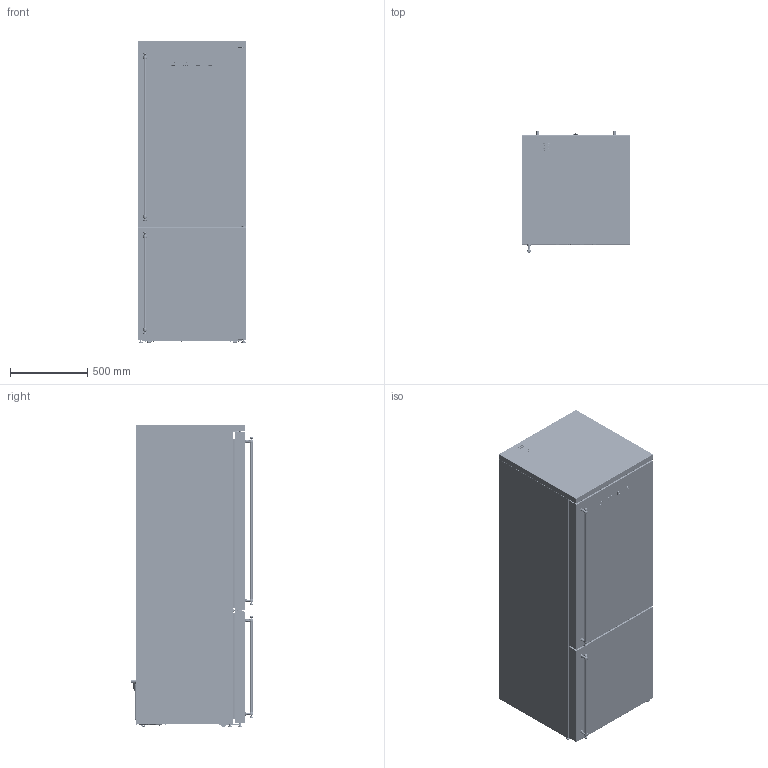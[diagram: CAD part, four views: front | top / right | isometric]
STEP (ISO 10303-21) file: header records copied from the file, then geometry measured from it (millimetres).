
FILE_DESCRIPTION(/* description */ (''),/* implementation_level */ '2;1');
FILE_NAME(/* name */ 'Assy-FA8005.stp',/* time_stamp */ '2025-07-28T12:39:12+02:00',/* author */ (''),/* organization */ (''),/* preprocessor_version */ 'ST-DEVELOPER v20',/* originating_system */ 'SIEMENS PLM Software NX2412.4001',/* authorisation */ '');
FILE_SCHEMA (('AUTOMOTIVE_DESIGN { 1 0 10303 214 3 1 1 1 }'));
Products named in the file (1): Assy-FA8005_objects
Bounding box: 703.6 x 790.49 x 1955.1 mm (x, y, z)
Volume: 11338305.9 mm3; surface area: 25139757.2 mm2
Topology: 100 solids, 106 shells, 9371 faces, 24169 edges, 15166 vertices
Faces by surface type: plane 4748, cylinder 3137, bspline 542, torus 481, cone 318, sphere 137, revolution 8
Full cylindrical faces by diameter (mm): 2 x27, 2.05 x8, 2.1 x8, 2.5 x8, 2.8 x2, 2.9 x6, 3.15 x3, 3.2 x34, 3.4 x2, 3.5 x20, 3.503 x24, 3.6 x2, 3.8 x6, 4 x14, 4.1 x9, 4.2 x24, 4.4 x3, 4.5 x8, 4.6 x14, 4.696 x20, 5 x25, 5.1 x11, 5.2 x14, 5.3 x16, 5.5 x8, 6 x98, 6.2 x2, 6.296 x4, 6.3 x8, 6.5 x3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
Entity records: 336277 total; most frequent: CARTESIAN_POINT 108180, ORIENTED_EDGE 46034, DIRECTION 45553, EDGE_CURVE 23017, AXIS2_PLACEMENT_3D 15696, VERTEX_POINT 15038, LINE 14153, VECTOR 14153
